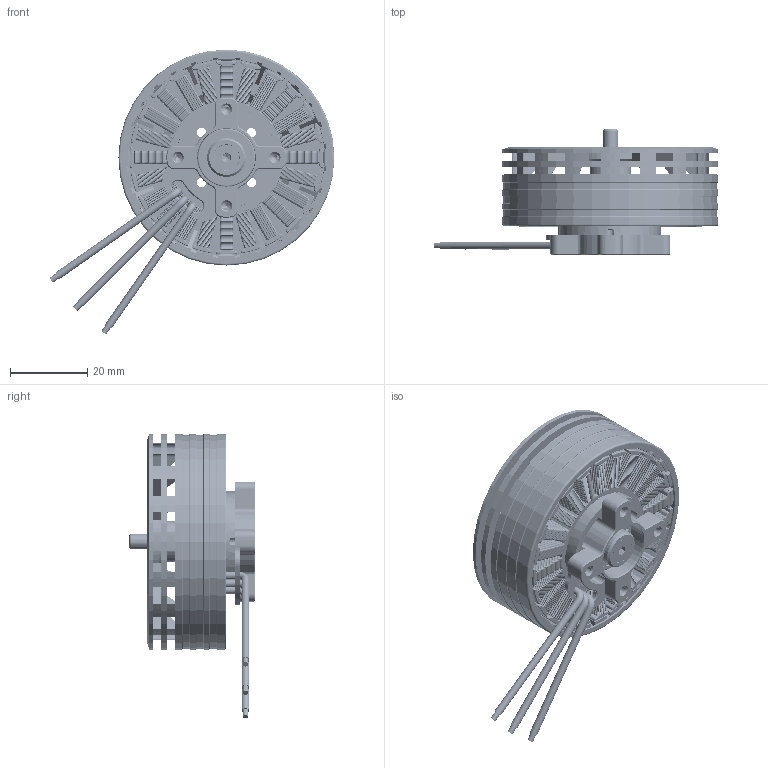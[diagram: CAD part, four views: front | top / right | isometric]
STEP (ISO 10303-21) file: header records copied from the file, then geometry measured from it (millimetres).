
FILE_DESCRIPTION (( 'STEP AP203' ), '1' );
FILE_NAME ('RD 5008 Customer CAD.STEP', '2026-08-12T08:50:05', ( '' ), ( '' ), 'SwSTEP 2.0', 'SolidWorks 2022', '' );
FILE_SCHEMA (( 'CONFIG_CONTROL_DESIGN' ));
Products named in the file (1): RD 5008 Customer CAD
Bounding box: 73.59 x 32.4 x 73.59 mm (x, y, z)
Volume: 26316.4 mm3; surface area: 43387.8 mm2
Topology: 4 solids, 33 shells, 20246 faces, 48068 edges, 27420 vertices
Faces by surface type: cylinder 9806, torus 9076, plane 858, sphere 320, cone 180, bspline 6
Entity records: 628628 total; most frequent: CARTESIAN_POINT 173388, DIRECTION 99960, ORIENTED_EDGE 95380, EDGE_CURVE 47690, AXIS2_PLACEMENT_3D 44117, VERTEX_POINT 27372, CIRCLE 23876, EDGE_LOOP 20334
